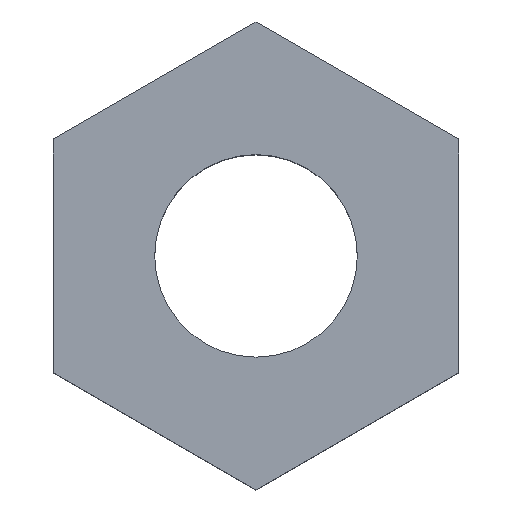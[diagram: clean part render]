
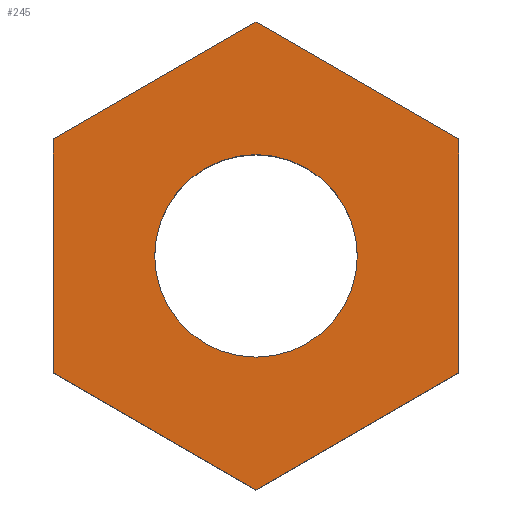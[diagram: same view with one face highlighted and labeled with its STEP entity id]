
A CAD part, top view. The second image highlights one B-rep face of the part: STEP entity #245.
In plain terms, the highlighted planar face has unit normal (0, 0, 1).
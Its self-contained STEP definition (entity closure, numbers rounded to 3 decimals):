
#12 = DIRECTION ( 'NONE',  ( 1., 0., 0. ) ) ;
#36 = CARTESIAN_POINT ( 'NONE',  ( 2.5, 4.33, 0. ) ) ;
#44 = VECTOR ( 'NONE', #482, 1000. ) ;
#46 = DIRECTION ( 'NONE',  ( 0., 0., 1. ) ) ;
#52 = CARTESIAN_POINT ( 'NONE',  ( 0., 0., 0. ) ) ;
#54 = CARTESIAN_POINT ( 'NONE',  ( -2.5, -4.33, 0. ) ) ;
#59 = VECTOR ( 'NONE', #320, 1000. ) ;
#60 = VERTEX_POINT ( 'NONE', #109 ) ;
#61 = CIRCLE ( 'NONE', #210, 2.5 ) ;
#69 = ORIENTED_EDGE ( 'NONE', *, *, #124, .T. ) ;
#76 = EDGE_CURVE ( 'NONE', #60, #427, #458, .T. ) ;
#83 = CARTESIAN_POINT ( 'NONE',  ( 0., 0., 0. ) ) ;
#90 = CARTESIAN_POINT ( 'NONE',  ( -5., 2.887, 0. ) ) ;
#95 = VECTOR ( 'NONE', #343, 1000. ) ;
#101 = DIRECTION ( 'NONE',  ( 0., -1., 0. ) ) ;
#109 = CARTESIAN_POINT ( 'NONE',  ( 5., 2.887, 0. ) ) ;
#120 = CARTESIAN_POINT ( 'NONE',  ( 0., 0., 0. ) ) ;
#124 = EDGE_CURVE ( 'NONE', #162, #211, #150, .T. ) ;
#126 = DIRECTION ( 'NONE',  ( 0., 0., -1. ) ) ;
#140 = LINE ( 'NONE', #445, #208 ) ;
#141 = ORIENTED_EDGE ( 'NONE', *, *, #212, .T. ) ;
#143 = ORIENTED_EDGE ( 'NONE', *, *, #174, .T. ) ;
#145 = CARTESIAN_POINT ( 'NONE',  ( 5., 0., 0. ) ) ;
#150 = LINE ( 'NONE', #375, #206 ) ;
#162 = VERTEX_POINT ( 'NONE', #397 ) ;
#165 = VERTEX_POINT ( 'NONE', #90 ) ;
#169 = CARTESIAN_POINT ( 'NONE',  ( -5., -2.887, 0. ) ) ;
#174 = EDGE_CURVE ( 'NONE', #485, #461, #473, .T. ) ;
#176 = ORIENTED_EDGE ( 'NONE', *, *, #308, .T. ) ;
#180 = ORIENTED_EDGE ( 'NONE', *, *, #76, .T. ) ;
#199 = ORIENTED_EDGE ( 'NONE', *, *, #396, .T. ) ;
#205 = DIRECTION ( 'NONE',  ( -1., 0., 0. ) ) ;
#206 = VECTOR ( 'NONE', #454, 1000. ) ;
#208 = VECTOR ( 'NONE', #101, 1000. ) ;
#210 = AXIS2_PLACEMENT_3D ( 'NONE', #83, #356, #472 ) ;
#211 = VERTEX_POINT ( 'NONE', #278 ) ;
#212 = EDGE_CURVE ( 'NONE', #461, #485, #61, .T. ) ;
#224 = DIRECTION ( 'NONE',  ( 0., 1., 0. ) ) ;
#232 = CARTESIAN_POINT ( 'NONE',  ( 2.5, 0., 0. ) ) ;
#245 = ADVANCED_FACE ( 'NONE', ( #313, #429 ), #465, .T. ) ;
#261 = AXIS2_PLACEMENT_3D ( 'NONE', #52, #126, #205 ) ;
#262 = EDGE_LOOP ( 'NONE', ( #176, #69, #483, #180, #446, #199 ) ) ;
#266 = LINE ( 'NONE', #145, #309 ) ;
#278 = CARTESIAN_POINT ( 'NONE',  ( 5., -2.887, 0. ) ) ;
#308 = EDGE_CURVE ( 'NONE', #347, #162, #440, .T. ) ;
#309 = VECTOR ( 'NONE', #224, 1000. ) ;
#313 = FACE_BOUND ( 'NONE', #408, .T. ) ;
#320 = DIRECTION ( 'NONE',  ( 0.866, -0.5, 0. ) ) ;
#323 = LINE ( 'NONE', #329, #44 ) ;
#329 = CARTESIAN_POINT ( 'NONE',  ( -2.5, 4.33, 0. ) ) ;
#340 = AXIS2_PLACEMENT_3D ( 'NONE', #120, #46, #12 ) ;
#343 = DIRECTION ( 'NONE',  ( -0.866, 0.5, 0. ) ) ;
#347 = VERTEX_POINT ( 'NONE', #169 ) ;
#356 = DIRECTION ( 'NONE',  ( 0., 0., -1. ) ) ;
#375 = CARTESIAN_POINT ( 'NONE',  ( 2.5, -4.33, 0. ) ) ;
#391 = EDGE_CURVE ( 'NONE', #427, #165, #323, .T. ) ;
#396 = EDGE_CURVE ( 'NONE', #165, #347, #140, .T. ) ;
#397 = CARTESIAN_POINT ( 'NONE',  ( 0., -5.774, 0. ) ) ;
#408 = EDGE_LOOP ( 'NONE', ( #141, #143 ) ) ;
#416 = CARTESIAN_POINT ( 'NONE',  ( -2.5, 0., 0. ) ) ;
#427 = VERTEX_POINT ( 'NONE', #475 ) ;
#429 = FACE_OUTER_BOUND ( 'NONE', #262, .T. ) ;
#440 = LINE ( 'NONE', #54, #59 ) ;
#445 = CARTESIAN_POINT ( 'NONE',  ( -5., 0., 0. ) ) ;
#446 = ORIENTED_EDGE ( 'NONE', *, *, #391, .T. ) ;
#454 = DIRECTION ( 'NONE',  ( 0.866, 0.5, 0. ) ) ;
#458 = LINE ( 'NONE', #36, #95 ) ;
#461 = VERTEX_POINT ( 'NONE', #416 ) ;
#465 = PLANE ( 'NONE',  #340 ) ;
#472 = DIRECTION ( 'NONE',  ( -1., 0., 0. ) ) ;
#473 = CIRCLE ( 'NONE', #261, 2.5 ) ;
#475 = CARTESIAN_POINT ( 'NONE',  ( 0., 5.774, 0. ) ) ;
#481 = EDGE_CURVE ( 'NONE', #211, #60, #266, .T. ) ;
#482 = DIRECTION ( 'NONE',  ( -0.866, -0.5, 0. ) ) ;
#483 = ORIENTED_EDGE ( 'NONE', *, *, #481, .T. ) ;
#485 = VERTEX_POINT ( 'NONE', #232 ) ;
